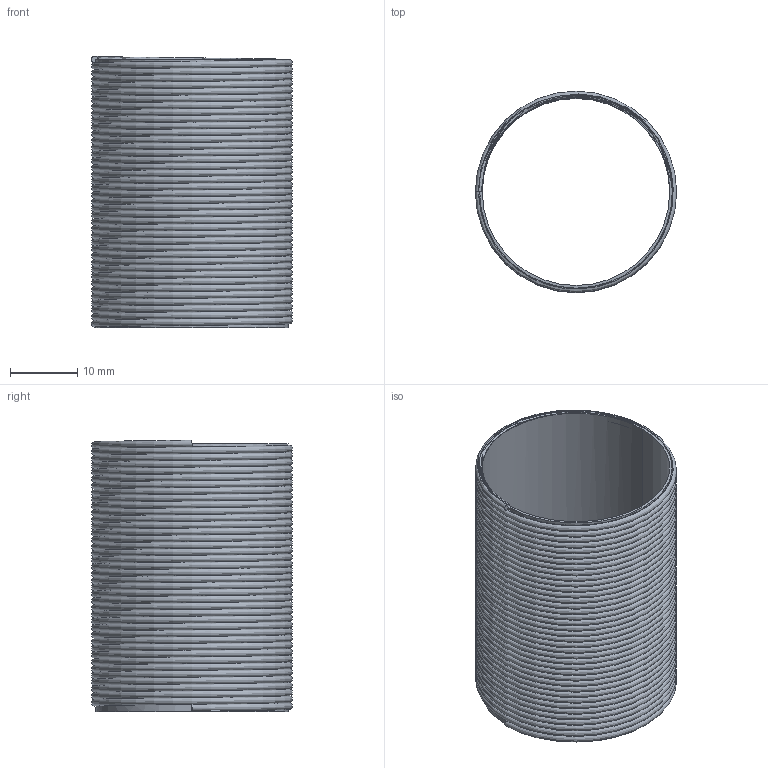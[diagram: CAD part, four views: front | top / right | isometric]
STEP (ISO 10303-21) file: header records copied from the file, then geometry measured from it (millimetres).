
FILE_DESCRIPTION (( 'STEP AP214' ), '1' );
FILE_NAME ('G12.STEP', '2016-02-27T15:45:31', ( '' ), ( '' ), 'SwSTEP 2.0', 'SolidWorks 2012', '' );
FILE_SCHEMA (( 'AUTOMOTIVE_DESIGN' ));
Length unit declared in the file: millimetre
Products named in the file (1): G12
Bounding box: 30 x 30 x 40.5 mm (x, y, z)
Volume: 3394 mm3; surface area: 10509.7 mm2
Topology: 1 solids, 1 shells, 89 faces, 261 edges, 174 vertices
Faces by surface type: cylinder 82, plane 4, bspline 3
Entity records: 18422 total; most frequent: CARTESIAN_POINT 16503, ORIENTED_EDGE 522, DIRECTION 285, EDGE_CURVE 261, VERTEX_POINT 174, AXIS2_PLACEMENT_3D 101, EDGE_LOOP 91, FACE_OUTER_BOUND 89
